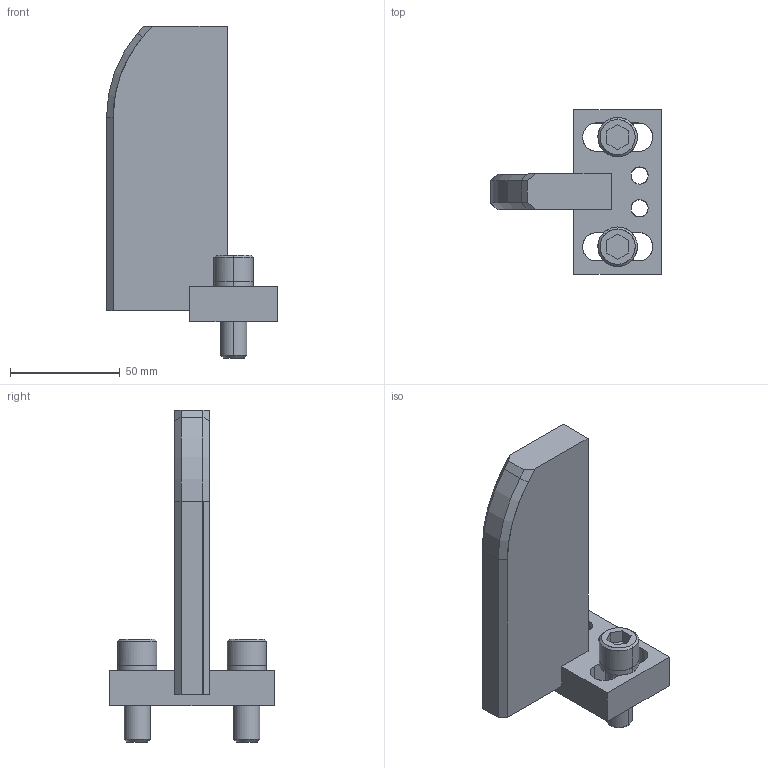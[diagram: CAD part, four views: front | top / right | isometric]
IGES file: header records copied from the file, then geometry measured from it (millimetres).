
Global section: file name: E:\UnigraphicsGraphicData\MISUMI_PRESS-PARTS\IGES\3d_ngwka-135-20-s55-k40-m12_01606_r00.igs; native system: NX V5.0; preprocessor: UGS NX IGES V5.0; author: MISUMI; date: 20110105.162119; units: millimetre
Bounding box: 78 x 75 x 151.5 mm (x, y, z)
Surface area: 37473.4 mm2 (no closed solid volume)
Topology: 0 solids, 0 shells, 104 faces, 666 edges, 666 vertices
Faces by surface type: bspline 104
